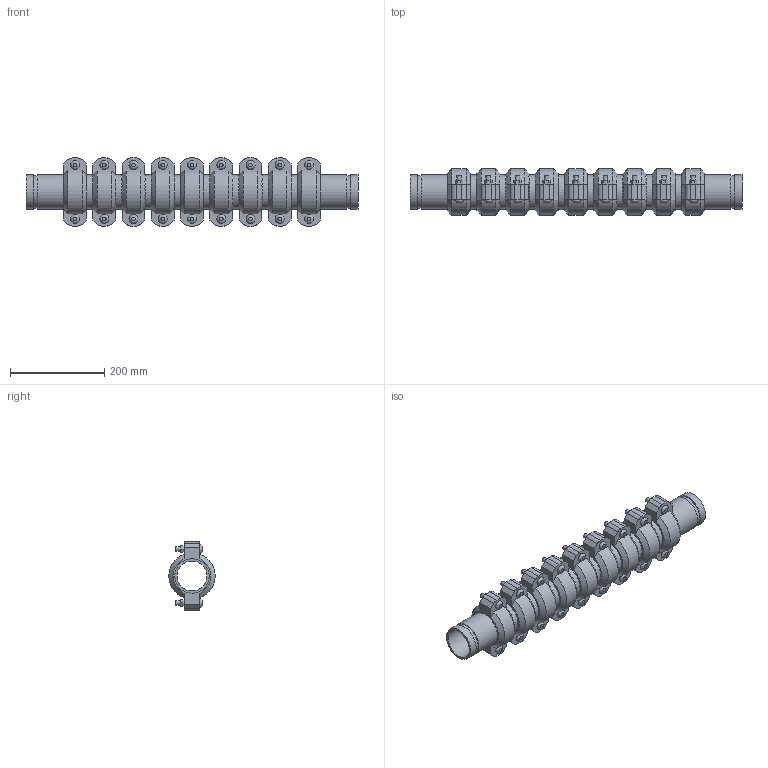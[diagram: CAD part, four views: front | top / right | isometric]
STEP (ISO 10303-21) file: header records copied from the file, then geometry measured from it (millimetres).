
FILE_DESCRIPTION(/* description */ ('VIC SS EXPANSION JOINT 9 COUPLINGS EXPANDED STYLE 155P (OGS) (POTABLE WATER) ','CAx-IF Rec.Pracs.---Representation and Presentation of Product Manufacturing Information (PMI)---4.0---2014-10-13'),/* implementation_level */ '2;1');
FILE_NAME(/* name */ 'C:\Users\kkamble\AppData\Roaming\Autodesk\ApplicationPlugins\Victaulic.Temp\A474\Victaulic_SS_Expansion Joint_Expanded_9 Couplings_Style 155P (OGS)-Potable Water_9 Coup_Expd_2.5 (65).stp',/* time_stamp */ '2021-07-16T16:57:47+05:00',/* author */ ('kkamble'),/* organization */ ('Victaulic'),/* preprocessor_version */ 'ST-DEVELOPER v17.2',/* originating_system */ 'Autodesk Inventor 2019',/* authorisation */ '');
FILE_SCHEMA (('AP242_MANAGED_MODEL_BASED_3D_ENGINEERING_MIM_LF { 1 0 10303 442 1 1 4 }'));
Length unit declared in the file: inch
Products named in the file (4): 155P-02.5; Nipple-02.5; Nipple-02.5_1; 075-02.5
Assembly tree (19 placements, depth 2):
  155P-02.5
    Nipple-02.5  x2
    Nipple-02.5_1  x8
    075-02.5  x9
Bounding box: 703.33 x 98.22 x 144.27 mm (x, y, z)
Volume: 2576656.3 mm3; surface area: 728055.5 mm2
Topology: 19 solids, 37 shells, 633 faces, 1497 edges, 1050 vertices
Faces by surface type: plane 384, cylinder 195, cone 36, bspline 18
Full cylindrical faces by diameter (mm): 9.525 x36, 11.43 x18, 63.475 x10, 66.675 x9, 69.088 x20, 73.025 x48
Entity records: 2856 total; most frequent: CARTESIAN_POINT 503, DIRECTION 481, ORIENTED_EDGE 386, AXIS2_PLACEMENT_3D 194, EDGE_CURVE 193, VERTEX_POINT 138, EDGE_LOOP 107, LINE 93
